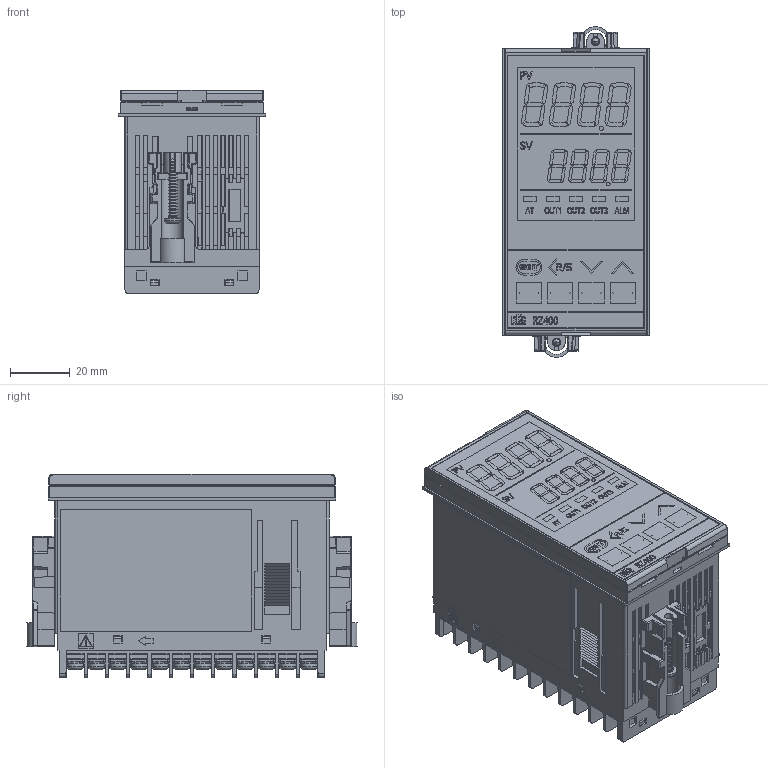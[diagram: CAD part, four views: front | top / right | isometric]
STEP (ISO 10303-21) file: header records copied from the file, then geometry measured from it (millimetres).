
FILE_DESCRIPTION (( 'STEP AP203' ), '1' );
FILE_NAME ('YIRZ400-11(0).STEP', '2019-05-28T02:51:27', ( '' ), ( '' ), 'SwSTEP 2.0', 'SolidWorks 2018', '' );
FILE_SCHEMA (( 'CONFIG_CONTROL_DESIGN' ));
Products named in the file (4): RZ400(基本設計)_WEB; KFB400-36(1)_WEB; KRZ400-520_WEB; YIRZ400-11(0)
Assembly tree (4 placements, depth 2):
  YIRZ400-11(0)
    RZ400(基本設計)_WEB
    KFB400-36(1)_WEB
    KRZ400-520_WEB  x2
Bounding box: 49.2 x 110.6 x 68 mm (x, y, z)
Volume: 256429.3 mm3; surface area: 60702.6 mm2
Topology: 7 solids, 7 shells, 7090 faces, 19288 edges, 12426 vertices
Faces by surface type: plane 4362, bspline 1549, cylinder 827, cone 172, sphere 128, torus 52
Entity records: 238018 total; most frequent: CARTESIAN_POINT 82927, ORIENTED_EDGE 35318, DIRECTION 26455, EDGE_CURVE 17659, LINE 12849, VECTOR 12849, VERTEX_POINT 11477, EDGE_LOOP 6840
